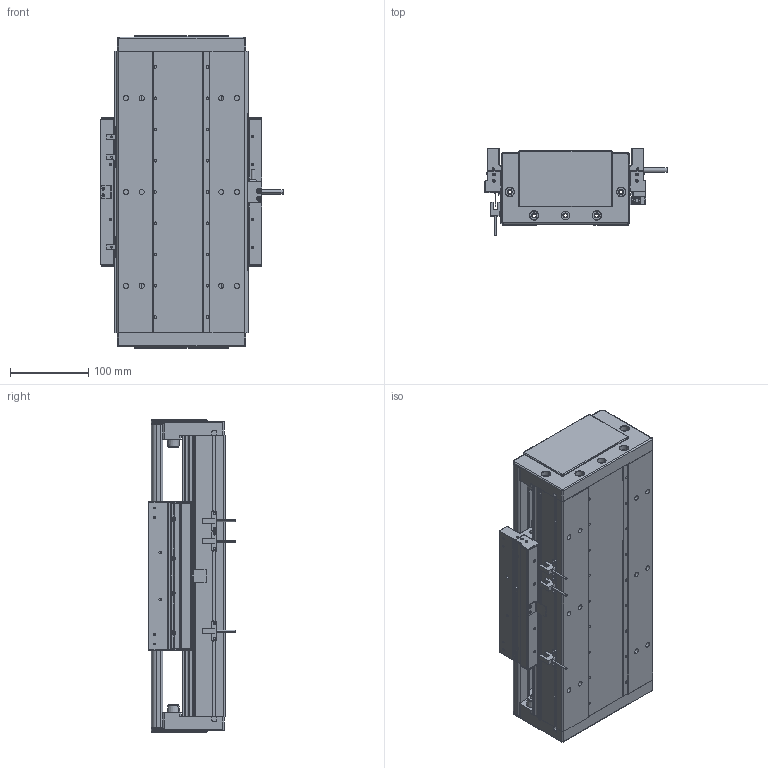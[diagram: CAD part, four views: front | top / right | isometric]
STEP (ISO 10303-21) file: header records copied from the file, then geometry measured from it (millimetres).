
FILE_DESCRIPTION (( 'STEP AP203' ), '1' );
FILE_NAME ('DA-C165-C2-T120-C010-0.2 直线电机.STEP', '2023-05-11T07:27:34', ( '微软用户' ), ( '微软中国' ), 'SwSTEP 2.0', 'SolidWorks 2019', '' );
FILE_SCHEMA (( 'CONFIG_CONTROL_DESIGN' ));
Length unit declared in the file: millimetre
Products named in the file (15): DA-C165-C2-T120-C010-0.2 眻盄萇儂; 复件 DA165-GYP-00 光电感应片^DA-C165-C2-T-C010-0.2-N 直线电机; IU-CU165-L-00 菁釱_L360; 葩璃 CKM01-W075-TRL^DA-C165-C2-T-C010-0.2-N 眻盄萇儂; 复件 DMA-010-0.2 读数头^DA-C165-C2-T-C010-0.2-N 直线电机; 珨极趙賑雄怢啣wf-C2; 葩璃 PM-T45^DA-C165-C2-T-C010-0.2-N 眻盄萇儂; 复件 CKM02-W075-C1C2-TP-3.0 一体电机-C2^DA-C165-C2-T-C010-0.2-N 直线电机; 复件 XD-U-02L 磁栅尺^DA-C165-C2-T-C010-0.2-N 直线电机_T; 葩璃 DA95-GT-T-00^IU-CU165-L 菁釱絳寢_T; 复件 六角薄螺母 M3^DA-C165-C2-T-C010-0.2-N 直线电机_GB_FASTENER_NUT_STNAB M3-C; 复件 DA165-DG-H-N-00 端盖^DA-C165-C2-T-C010-0.2-N 直线电机; 复件 DA165-T-002-00 盖板^DA-C165-C2-T-C010-0.2-N 直线电机_0840-002-00; IU-CU165-L 菁釱絳寢; 复件 DA95-HXJ-00 缓冲橡胶^DA-C165-C2-T-C010-0.2-N 直线电机
Assembly tree (28 placements, depth 3):
  DA-C165-C2-T120-C010-0.2 眻盄萇儂
    IU-CU165-L 菁釱絳寢
      IU-CU165-L-00 菁釱_L360
      葩璃 DA95-GT-T-00^IU-CU165-L 菁釱絳寢_T  x4
    复件 DA165-DG-H-N-00 端盖^DA-C165-C2-T-C010-0.2-N 直线电机  x2
    复件 DA95-HXJ-00 缓冲橡胶^DA-C165-C2-T-C010-0.2-N 直线电机  x4
    复件 DA165-T-002-00 盖板^DA-C165-C2-T-C010-0.2-N 直线电机_0840-002-00
    复件 XD-U-02L 磁栅尺^DA-C165-C2-T-C010-0.2-N 直线电机_T
    葩璃 PM-T45^DA-C165-C2-T-C010-0.2-N 眻盄萇儂  x3
    葩璃 CKM01-W075-TRL^DA-C165-C2-T-C010-0.2-N 眻盄萇儂
    复件 DA165-GYP-00 光电感应片^DA-C165-C2-T-C010-0.2-N 直线电机
    复件 DMA-010-0.2 读数头^DA-C165-C2-T-C010-0.2-N 直线电机
    复件 CKM02-W075-C1C2-TP-3.0 一体电机-C2^DA-C165-C2-T-C010-0.2-N 直线电机
    复件 六角薄螺母 M3^DA-C165-C2-T-C010-0.2-N 直线电机_GB_FASTENER_NUT_STNAB M3-C  x6
    珨极趙賑雄怢啣wf-C2
Bounding box: 233 x 111.45 x 400 mm (x, y, z)
Volume: 4172350.5 mm3; surface area: 1010294.3 mm2
Topology: 66 solids, 66 shells, 2740 faces, 7158 edges, 4435 vertices
Faces by surface type: cylinder 1239, plane 1037, cone 406, torus 54, sphere 4
Entity records: 75483 total; most frequent: CARTESIAN_POINT 15310, DIRECTION 12600, ORIENTED_EDGE 11790, EDGE_CURVE 5895, AXIS2_PLACEMENT_3D 4683, VERTEX_POINT 3771, LINE 3234, VECTOR 3234
